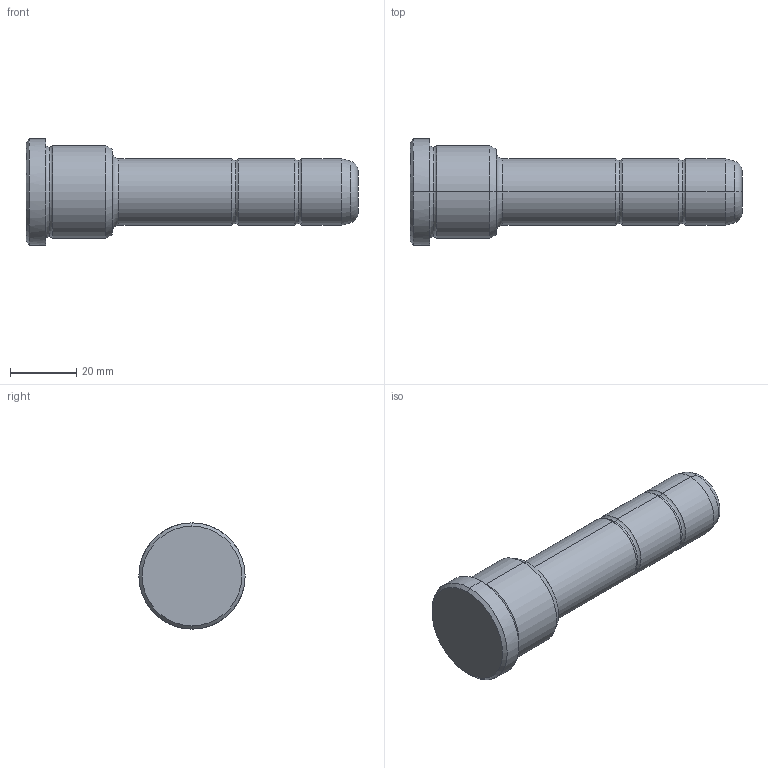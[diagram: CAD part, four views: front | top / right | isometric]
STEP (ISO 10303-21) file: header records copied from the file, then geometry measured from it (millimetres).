
FILE_DESCRIPTION(('CATIA V5 STEP Exchange'),'2;1');
FILE_NAME('C:\Users\Utente\Desktop\IO LAVORO\3D X SITO CF\X SITO\PLASTICA\351\351-20X26X100.stp','2021-08-27T12:31:14+00:00',('none'),('none'),'CATIA Version 5 Release 20 GA (IN-10)','CATIA V5 STEP AP203','none');
FILE_SCHEMA(('CONFIG_CONTROL_DESIGN'));
Length unit declared in the file: millimetre
Products named in the file (1): 351-20X26X100
Bounding box: 100 x 32 x 32 mm (x, y, z)
Volume: 39896.1 mm3; surface area: 8354.6 mm2
Topology: 1 solids, 1 shells, 36 faces, 102 edges, 70 vertices
Faces by surface type: torus 16, cylinder 10, cone 6, plane 4
Entity records: 1292 total; most frequent: CARTESIAN_POINT 321, ORIENTED_EDGE 204, DIRECTION 166, AXIS2_PLACEMENT_3D 115, EDGE_CURVE 102, CIRCLE 78, VERTEX_POINT 70, EDGE_LOOP 38
